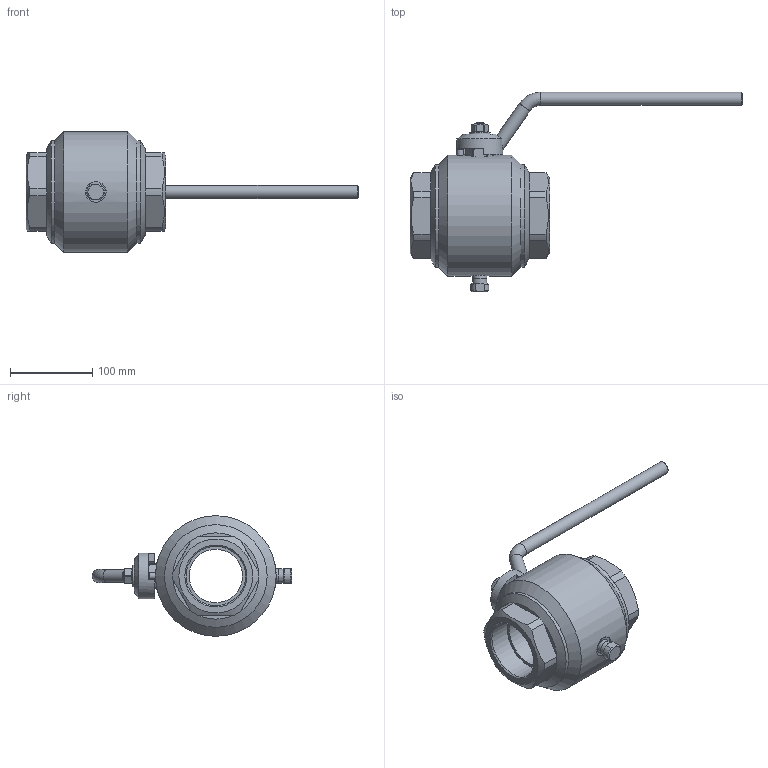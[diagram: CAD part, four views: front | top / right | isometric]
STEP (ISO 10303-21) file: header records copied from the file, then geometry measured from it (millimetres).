
FILE_DESCRIPTION(('STEP AP203'), '1');
FILE_NAME('ZARDP 065.025.10.P.stp', '2013-12-06T09:14:22', ('1'), ('1'), 'ASCON STEP Converter 1.3', 'Kompas 3D', '');
FILE_SCHEMA(('CONFIG_CONTROL_DESIGN','SUPPORT_RESOURCE_SCHEMA'));
Length unit declared in the file: millimetre
Products named in the file (1): 236
Bounding box: 404.31 x 243 x 147 mm (x, y, z)
Volume: 1481462.2 mm3; surface area: 173386.7 mm2
Topology: 1 solids, 5 shells, 196 faces, 460 edges, 279 vertices
Faces by surface type: plane 88, cylinder 61, cone 39, torus 8
Full cylindrical faces by diameter (mm): 8 x2, 12 x2, 14.141 x1, 16 x2, 17.33 x1, 22 x1, 24 x3, 24.1 x1, 25 x1, 26 x1, 31.8 x1, 32 x1, 35 x2, 56 x1, 65 x2, 72.227 x2, 107.8 x1, 125 x2, 147 x1
Entity records: 8471 total; most frequent: CARTESIAN_POINT 3874, DIRECTION 973, ORIENTED_EDGE 920, EDGE_CURVE 460, AXIS2_PLACEMENT_3D 393, VERTEX_POINT 279, EDGE_LOOP 219, ADVANCED_FACE 196
